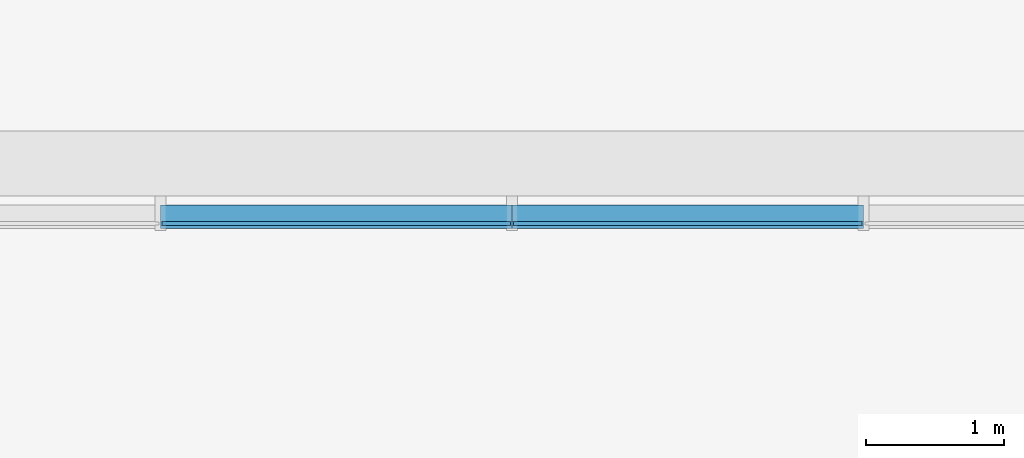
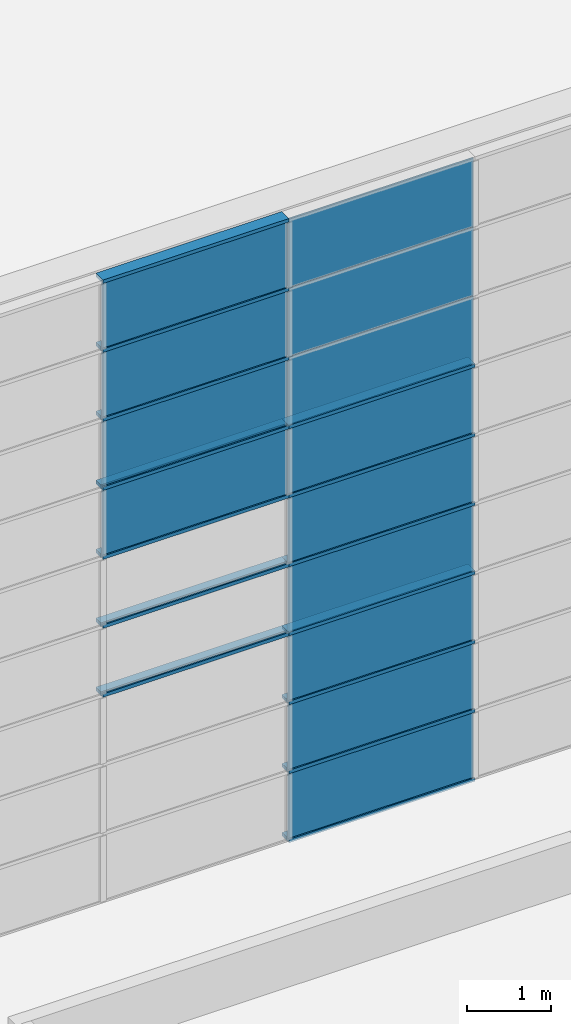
# One storey, part 31 of 105: 30 building element parts, 3 elements without a shape of their own.
"""IFC4 building model written with IfcOpenShell, lengths in millimetres."""

from ifc_helpers import new_model, entity, si_unit, converted_unit, derived_unit, direction, frame, origin_with_axes, place, context, subcontext, project, spatial, triangles, material, element, aggregate, save


model = new_model("IFC4")

# Units and contexts
model_context = context("Model", 3, precision=1e-05, world=origin_with_axes(), true_north=direction((0.0, 1.0)))
body_context = subcontext(model_context, "Body", "Model", "MODEL_VIEW")
ifc_project = project(units=[si_unit("LENGTHUNIT", "METRE", prefix="MILLI"), si_unit("AREAUNIT", "SQUARE_METRE"), si_unit("VOLUMEUNIT", "CUBIC_METRE"), converted_unit("PLANEANGLEUNIT", "DEGREE", entity("IfcLengthMeasure", 0.017453), si_unit("PLANEANGLEUNIT", "RADIAN"), dimensions=[0, 0, 0, 0, 0, 0, 0]), si_unit("SOLIDANGLEUNIT", "STERADIAN"), si_unit("MASSUNIT", "GRAM"), si_unit("TIMEUNIT", "SECOND"), si_unit("THERMODYNAMICTEMPERATUREUNIT", "DEGREE_CELSIUS"), si_unit("LUMINOUSINTENSITYUNIT", "LUMEN"), si_unit("POWERUNIT", "WATT"), derived_unit("THERMALTRANSMITTANCEUNIT", [(si_unit("POWERUNIT", "WATT"), 1), (si_unit("THERMODYNAMICTEMPERATUREUNIT", "KELVIN"), -1), (si_unit("AREAUNIT", "SQUARE_METRE"), -1)])], contexts=[model_context])

# Site, building, storey
site_placement = place(None, origin_with_axes())
site = spatial("IfcSite", under=ifc_project, at=site_placement, Name="Default Site", CompositionType="ELEMENT")
building_placement = place(site_placement, origin_with_axes())
building = spatial("IfcBuilding", under=site, at=building_placement, Name="Default Building", CompositionType="ELEMENT")
storey_placement = place(building_placement, origin_with_axes())
storey = spatial("IfcBuildingStorey", under=building, at=storey_placement, Name="OG - Story", CompositionType="ELEMENT", Elevation=0.0)

# Curtain wall, building element parts
curtain_wall_1_placement = place(storey_placement, origin_with_axes())
curtain_wall_1 = element("IfcCurtainWall", 1, at=curtain_wall_1_placement, inside=storey, Name="Fassade-005", PredefinedType="NOTDEFINED")
ifc_material_1 = material(Name="Normalglas")
building_element_part_1_placement = place(curtain_wall_1_placement, frame((52496.845873, -27789.262838, 3000.0), z_axis=(0.0, 0.0, 1.0), x_axis=(1.0, 0.0, 0.0)))
building_element_part_1 = element("IfcBuildingElementPart", 2, at=building_element_part_1_placement, material=ifc_material_1, Name="Normalglas", PredefinedType="NOTDEFINED", context=body_context, shape_type="Tessellation", body=[
    triangles([(8918.182, 15.0, 995.0), (6387.273, 15.0, 995.0), (6387.273, -14.999, 995.0), (8918.182, -14.999, 995.0), (8918.182, 15.0, 5.0), (6387.273, 15.0, 5.0), (6387.273, -14.999, 5.0), (8918.182, -14.999, 5.0)], [[1, 2, 3], [1, 3, 4], [1, 5, 6], [1, 6, 2], [2, 6, 7], [2, 7, 3], [4, 3, 7], [4, 7, 8], [5, 1, 4], [5, 4, 8], [6, 5, 8], [6, 8, 7]], closed=False),
])
building_element_part_2_placement = place(curtain_wall_1_placement, frame((52496.845873, -27789.262838, 3000.0), z_axis=(0.0, 0.0, 1.0), x_axis=(1.0, 0.0, 0.0)))
building_element_part_2 = element("IfcBuildingElementPart", 3, at=building_element_part_2_placement, material=ifc_material_1, Name="Normalglas", PredefinedType="NOTDEFINED", context=body_context, shape_type="Tessellation", body=[
    triangles([(8918.182, 15.0, 1995.0), (6387.273, 15.0, 1995.0), (6387.273, -14.999, 1995.0), (8918.182, -14.999, 1995.0), (8918.182, 15.0, 1005.0), (6387.273, 15.0, 1005.0), (6387.273, -14.999, 1005.0), (8918.182, -14.999, 1005.0)], [[1, 2, 3], [1, 3, 4], [1, 5, 6], [1, 6, 2], [2, 6, 7], [2, 7, 3], [4, 3, 7], [4, 7, 8], [5, 1, 4], [5, 4, 8], [6, 5, 8], [6, 8, 7]], closed=False),
])
building_element_part_3_placement = place(curtain_wall_1_placement, frame((52496.845873, -27789.262838, 3000.0), z_axis=(0.0, 0.0, 1.0), x_axis=(1.0, 0.0, 0.0)))
building_element_part_3 = element("IfcBuildingElementPart", 4, at=building_element_part_3_placement, material=ifc_material_1, Name="Normalglas", PredefinedType="NOTDEFINED", context=body_context, shape_type="Tessellation", body=[
    triangles([(8918.182, 15.0, 2995.0), (6387.273, 15.0, 2995.0), (6387.273, -14.999, 2995.0), (8918.182, -14.999, 2995.0), (8918.182, 15.0, 2005.0), (6387.273, 15.0, 2005.0), (6387.273, -14.999, 2005.0), (8918.182, -14.999, 2005.0)], [[1, 2, 3], [1, 3, 4], [1, 5, 6], [1, 6, 2], [2, 6, 7], [2, 7, 3], [4, 3, 7], [4, 7, 8], [5, 1, 4], [5, 4, 8], [6, 5, 8], [6, 8, 7]], closed=False),
])
ifc_material_2 = material(Name="Blech")
building_element_part_4_placement = place(curtain_wall_1_placement, frame((52496.845873, -27789.262838, 3000.0), z_axis=(0.0, 0.0, 1.0), x_axis=(1.0, 0.0, 0.0)))
building_element_part_4 = element("IfcBuildingElementPart", 5, at=building_element_part_4_placement, material=ifc_material_2, Name="Blech", PredefinedType="NOTDEFINED", context=body_context, shape_type="Tessellation", body=[
    triangles([(8928.182, 15.0, 25.0), (8928.182, 133.0, 25.0), (8928.182, 15.0, 5.0), (8928.182, 133.0, -24.999), (8928.182, -14.999, 5.0), (8928.182, -34.999, -24.999), (8928.182, -14.999, 25.0), (8928.182, -34.999, 25.0), (6377.273, 15.0, 5.0), (6377.273, -14.999, 5.0), (6377.273, -14.999, 25.0), (6377.273, -34.999, 25.0), (6377.273, -34.999, -24.999), (6377.273, 133.0, -24.999), (6377.273, 133.0, 25.0), (6377.273, 15.0, 25.0)], [[1, 2, 3], [3, 2, 4], [3, 4, 5], [5, 4, 6], [5, 6, 7], [7, 6, 8], [5, 3, 9], [5, 9, 10], [11, 7, 5], [11, 5, 10], [7, 11, 12], [7, 12, 8], [13, 6, 8], [13, 8, 12], [14, 4, 6], [14, 6, 13], [15, 2, 4], [15, 4, 14], [16, 1, 2], [16, 2, 15], [3, 1, 16], [3, 16, 9], [16, 15, 9], [9, 15, 14], [9, 14, 10], [10, 14, 13], [10, 13, 11], [11, 13, 12]], closed=False),
])
building_element_part_5_placement = place(curtain_wall_1_placement, frame((52496.845873, -27789.262838, 3000.0), z_axis=(0.0, 0.0, 1.0), x_axis=(1.0, 0.0, 0.0)))
building_element_part_5 = element("IfcBuildingElementPart", 6, at=building_element_part_5_placement, material=ifc_material_2, Name="Blech", PredefinedType="NOTDEFINED", context=body_context, shape_type="Tessellation", body=[
    triangles([(8928.182, 133.0, 1025.0), (8928.182, 15.0, 1025.0), (8928.182, 133.0, 975.0), (8928.182, 15.0, 1005.0), (8928.182, 15.0, 995.0), (8928.182, -14.999, 1005.0), (8928.182, -14.999, 995.0), (8928.182, -14.999, 975.0), (8928.182, -14.999, 1025.0), (8928.182, -34.999, 1025.0), (8928.182, -34.999, 975.0), (8928.182, 15.0, 975.0), (6377.273, 15.0, 995.0), (6377.273, 15.0, 975.0), (6377.273, 133.0, 975.0), (6377.273, 133.0, 1025.0), (6377.273, 15.0, 1025.0), (6377.273, 15.0, 1005.0), (6377.273, -14.999, 1005.0), (6377.273, -14.999, 1025.0), (6377.273, -34.999, 1025.0), (6377.273, -34.999, 975.0), (6377.273, -14.999, 975.0), (6377.273, -14.999, 995.0)], [[1, 2, 3], [3, 2, 4], [3, 4, 5], [5, 4, 6], [5, 6, 7], [8, 9, 10], [8, 10, 11], [3, 5, 12], [12, 5, 13], [12, 13, 14], [12, 14, 15], [12, 15, 3], [1, 3, 15], [1, 15, 16], [2, 1, 16], [2, 16, 17], [2, 17, 18], [2, 18, 4], [4, 18, 19], [4, 19, 6], [9, 6, 19], [9, 19, 20], [20, 21, 10], [20, 10, 9], [11, 10, 21], [11, 21, 22], [23, 8, 11], [23, 11, 22], [7, 8, 23], [7, 23, 24], [5, 7, 24], [5, 24, 13], [15, 14, 16], [16, 14, 13], [16, 13, 18], [18, 13, 24], [18, 24, 19], [20, 23, 22], [20, 22, 21], [16, 18, 17]], closed=False),
])
building_element_part_6_placement = place(curtain_wall_1_placement, frame((52496.845873, -27789.262838, 3000.0), z_axis=(0.0, 0.0, 1.0), x_axis=(1.0, 0.0, 0.0)))
building_element_part_6 = element("IfcBuildingElementPart", 7, at=building_element_part_6_placement, material=ifc_material_2, Name="Blech", PredefinedType="NOTDEFINED", context=body_context, shape_type="Tessellation", body=[
    triangles([(8928.182, 133.0, 2025.0), (8928.182, 15.0, 2025.0), (8928.182, 133.0, 1975.0), (8928.182, 15.0, 2005.0), (8928.182, 15.0, 1995.0), (8928.182, -14.999, 2005.0), (8928.182, -14.999, 1995.0), (8928.182, -14.999, 1975.0), (8928.182, -14.999, 2025.0), (8928.182, -34.999, 2025.0), (8928.182, -34.999, 1975.0), (8928.182, 15.0, 1975.0), (6377.273, 15.0, 1995.0), (6377.273, 15.0, 1975.0), (6377.273, 133.0, 1975.0), (6377.273, 133.0, 2025.0), (6377.273, 15.0, 2025.0), (6377.273, 15.0, 2005.0), (6377.273, -14.999, 2005.0), (6377.273, -14.999, 2025.0), (6377.273, -34.999, 2025.0), (6377.273, -34.999, 1975.0), (6377.273, -14.999, 1975.0), (6377.273, -14.999, 1995.0)], [[1, 2, 3], [3, 2, 4], [3, 4, 5], [5, 4, 6], [5, 6, 7], [8, 9, 10], [8, 10, 11], [3, 5, 12], [12, 5, 13], [12, 13, 14], [12, 14, 15], [12, 15, 3], [1, 3, 15], [1, 15, 16], [2, 1, 16], [2, 16, 17], [2, 17, 18], [2, 18, 4], [4, 18, 19], [4, 19, 6], [9, 6, 19], [9, 19, 20], [20, 21, 10], [20, 10, 9], [11, 10, 21], [11, 21, 22], [23, 8, 11], [23, 11, 22], [7, 8, 23], [7, 23, 24], [5, 7, 24], [5, 24, 13], [15, 14, 16], [16, 14, 13], [16, 13, 18], [18, 13, 24], [18, 24, 19], [20, 23, 22], [20, 22, 21], [16, 18, 17]], closed=False),
])
building_element_part_7_placement = place(curtain_wall_1_placement, frame((52496.845873, -27789.262838, 3000.0), z_axis=(0.0, 0.0, 1.0), x_axis=(1.0, 0.0, 0.0)))
building_element_part_7 = element("IfcBuildingElementPart", 8, at=building_element_part_7_placement, material=ifc_material_2, Name="Blech", PredefinedType="NOTDEFINED", context=body_context, shape_type="Tessellation", body=[
    triangles([(8928.182, 15.0, 2975.0), (8928.182, 133.0, 2975.0), (8928.182, 15.0, 2995.0), (8928.182, 133.0, 3025.0), (8928.182, -14.999, 2995.0), (8928.182, -34.999, 3025.0), (8928.182, -14.999, 2975.0), (8928.182, -34.999, 2975.0), (6377.273, 15.0, 2995.0), (6377.273, 15.0, 2975.0), (6377.273, 133.0, 2975.0), (6377.273, 133.0, 3025.0), (6377.273, -34.999, 3025.0), (6377.273, -34.999, 2975.0), (6377.273, -14.999, 2975.0), (6377.273, -14.999, 2995.0)], [[1, 2, 3], [3, 2, 4], [3, 4, 5], [5, 4, 6], [5, 6, 7], [7, 6, 8], [3, 9, 10], [3, 10, 1], [10, 11, 2], [10, 2, 1], [11, 12, 4], [11, 4, 2], [12, 13, 6], [12, 6, 4], [13, 14, 8], [13, 8, 6], [7, 8, 14], [7, 14, 15], [15, 16, 5], [15, 5, 7], [5, 16, 9], [5, 9, 3], [10, 11, 9], [9, 11, 12], [9, 12, 16], [16, 12, 13], [16, 13, 15], [15, 13, 14]], closed=False),
])
aggregate(curtain_wall_1, [building_element_part_1, building_element_part_2, building_element_part_3, building_element_part_4, building_element_part_5, building_element_part_6, building_element_part_7])

curtain_wall_2_placement = place(storey_placement, origin_with_axes())
curtain_wall_2 = element("IfcCurtainWall", 9, at=curtain_wall_2_placement, inside=storey, Name="Fassade-005", PredefinedType="NOTDEFINED")
building_element_part_8_placement = place(curtain_wall_2_placement, frame((52496.845873, -27789.262838, 6000.0), z_axis=(0.0, 0.0, 1.0), x_axis=(1.0, 0.0, 0.0)))
building_element_part_8 = element("IfcBuildingElementPart", 10, at=building_element_part_8_placement, material=ifc_material_1, Name="Normalglas", PredefinedType="NOTDEFINED", context=body_context, shape_type="Tessellation", body=[
    triangles([(8918.182, 15.0, 995.0), (6387.273, 15.0, 995.0), (6387.273, -14.999, 995.0), (8918.182, -14.999, 995.0), (8918.182, 15.0, 5.0), (6387.273, 15.0, 5.0), (6387.273, -14.999, 5.0), (8918.182, -14.999, 5.0)], [[1, 2, 3], [1, 3, 4], [1, 5, 6], [1, 6, 2], [2, 6, 7], [2, 7, 3], [4, 3, 7], [4, 7, 8], [5, 1, 4], [5, 4, 8], [6, 5, 8], [6, 8, 7]], closed=False),
])
building_element_part_9_placement = place(curtain_wall_2_placement, frame((52496.845873, -27789.262838, 6000.0), z_axis=(0.0, 0.0, 1.0), x_axis=(1.0, 0.0, 0.0)))
building_element_part_9 = element("IfcBuildingElementPart", 11, at=building_element_part_9_placement, material=ifc_material_1, Name="Normalglas", PredefinedType="NOTDEFINED", context=body_context, shape_type="Tessellation", body=[
    triangles([(8918.182, 15.0, 1995.0), (6387.273, 15.0, 1995.0), (6387.273, -14.999, 1995.0), (8918.182, -14.999, 1995.0), (8918.182, 15.0, 1005.0), (6387.273, 15.0, 1005.0), (6387.273, -14.999, 1005.0), (8918.182, -14.999, 1005.0)], [[1, 2, 3], [1, 3, 4], [1, 5, 6], [1, 6, 2], [2, 6, 7], [2, 7, 3], [4, 3, 7], [4, 7, 8], [5, 1, 4], [5, 4, 8], [6, 5, 8], [6, 8, 7]], closed=False),
])
building_element_part_10_placement = place(curtain_wall_2_placement, frame((52496.845873, -27789.262838, 6000.0), z_axis=(0.0, 0.0, 1.0), x_axis=(1.0, 0.0, 0.0)))
building_element_part_10 = element("IfcBuildingElementPart", 12, at=building_element_part_10_placement, material=ifc_material_1, Name="Normalglas", PredefinedType="NOTDEFINED", context=body_context, shape_type="Tessellation", body=[
    triangles([(6367.273, 15.0, 2995.0), (3836.364, 15.0, 2995.0), (3836.364, -14.999, 2995.0), (6367.273, -14.999, 2995.0), (6367.273, 15.0, 2005.0), (3836.364, 15.0, 2005.0), (3836.364, -14.999, 2005.0), (6367.273, -14.999, 2005.0)], [[1, 2, 3], [1, 3, 4], [1, 5, 6], [1, 6, 2], [2, 6, 7], [2, 7, 3], [4, 3, 7], [4, 7, 8], [5, 1, 4], [5, 4, 8], [6, 5, 8], [6, 8, 7]], closed=False),
])
building_element_part_11_placement = place(curtain_wall_2_placement, frame((52496.845873, -27789.262838, 6000.0), z_axis=(0.0, 0.0, 1.0), x_axis=(1.0, 0.0, 0.0)))
building_element_part_11 = element("IfcBuildingElementPart", 13, at=building_element_part_11_placement, material=ifc_material_1, Name="Normalglas", PredefinedType="NOTDEFINED", context=body_context, shape_type="Tessellation", body=[
    triangles([(8918.182, 15.0, 2995.0), (6387.273, 15.0, 2995.0), (6387.273, -14.999, 2995.0), (8918.182, -14.999, 2995.0), (8918.182, 15.0, 2005.0), (6387.273, 15.0, 2005.0), (6387.273, -14.999, 2005.0), (8918.182, -14.999, 2005.0)], [[1, 2, 3], [1, 3, 4], [1, 5, 6], [1, 6, 2], [2, 6, 7], [2, 7, 3], [4, 3, 7], [4, 7, 8], [5, 1, 4], [5, 4, 8], [6, 5, 8], [6, 8, 7]], closed=False),
])
building_element_part_12_placement = place(curtain_wall_2_placement, frame((52496.845873, -27789.262838, 6000.0), z_axis=(0.0, 0.0, 1.0), x_axis=(1.0, 0.0, 0.0)))
building_element_part_12 = element("IfcBuildingElementPart", 14, at=building_element_part_12_placement, material=ifc_material_2, Name="Blech", PredefinedType="NOTDEFINED", context=body_context, shape_type="Tessellation", body=[
    triangles([(6377.273, 15.0, 25.0), (6377.273, 133.0, 25.0), (6377.273, 15.0, 5.0), (6377.273, 133.0, -24.999), (6377.273, -14.999, 5.0), (6377.273, -34.999, -24.999), (6377.273, -14.999, 25.0), (6377.273, -34.999, 25.0), (3826.364, 15.0, 5.0), (3826.364, -14.999, 5.0), (3826.364, -14.999, 25.0), (3826.364, -34.999, 25.0), (3826.364, -34.999, -24.999), (3826.364, 133.0, -24.999), (3826.364, 133.0, 25.0), (3826.364, 15.0, 25.0)], [[1, 2, 3], [3, 2, 4], [3, 4, 5], [5, 4, 6], [5, 6, 7], [7, 6, 8], [5, 3, 9], [5, 9, 10], [11, 7, 5], [11, 5, 10], [7, 11, 12], [7, 12, 8], [13, 6, 8], [13, 8, 12], [14, 4, 6], [14, 6, 13], [15, 2, 4], [15, 4, 14], [16, 1, 2], [16, 2, 15], [3, 1, 16], [3, 16, 9], [16, 15, 9], [9, 15, 14], [9, 14, 10], [10, 14, 13], [10, 13, 11], [11, 13, 12]], closed=False),
])
building_element_part_13_placement = place(curtain_wall_2_placement, frame((52496.845873, -27789.262838, 6000.0), z_axis=(0.0, 0.0, 1.0), x_axis=(1.0, 0.0, 0.0)))
building_element_part_13 = element("IfcBuildingElementPart", 15, at=building_element_part_13_placement, material=ifc_material_2, Name="Blech", PredefinedType="NOTDEFINED", context=body_context, shape_type="Tessellation", body=[
    triangles([(8928.182, 15.0, 25.0), (8928.182, 133.0, 25.0), (8928.182, 15.0, 5.0), (8928.182, 133.0, -24.999), (8928.182, -14.999, 5.0), (8928.182, -34.999, -24.999), (8928.182, -14.999, 25.0), (8928.182, -34.999, 25.0), (6377.273, 15.0, 5.0), (6377.273, -14.999, 5.0), (6377.273, -14.999, 25.0), (6377.273, -34.999, 25.0), (6377.273, -34.999, -24.999), (6377.273, 133.0, -24.999), (6377.273, 133.0, 25.0), (6377.273, 15.0, 25.0)], [[1, 2, 3], [3, 2, 4], [3, 4, 5], [5, 4, 6], [5, 6, 7], [7, 6, 8], [5, 3, 9], [5, 9, 10], [11, 7, 5], [11, 5, 10], [7, 11, 12], [7, 12, 8], [13, 6, 8], [13, 8, 12], [14, 4, 6], [14, 6, 13], [15, 2, 4], [15, 4, 14], [16, 1, 2], [16, 2, 15], [3, 1, 16], [3, 16, 9], [16, 15, 9], [9, 15, 14], [9, 14, 10], [10, 14, 13], [10, 13, 11], [11, 13, 12]], closed=False),
])
building_element_part_14_placement = place(curtain_wall_2_placement, frame((52496.845873, -27789.262838, 6000.0), z_axis=(0.0, 0.0, 1.0), x_axis=(1.0, 0.0, 0.0)))
building_element_part_14 = element("IfcBuildingElementPart", 16, at=building_element_part_14_placement, material=ifc_material_2, Name="Blech", PredefinedType="NOTDEFINED", context=body_context, shape_type="Tessellation", body=[
    triangles([(6377.273, 133.0, 1025.0), (6377.273, 15.0, 1025.0), (6377.273, 133.0, 975.0), (6377.273, 15.0, 1005.0), (6377.273, 15.0, 995.0), (6377.273, -14.999, 1005.0), (6377.273, -14.999, 995.0), (6377.273, -14.999, 975.0), (6377.273, -14.999, 1025.0), (6377.273, -34.999, 1025.0), (6377.273, -34.999, 975.0), (6377.273, 15.0, 975.0), (3826.364, 15.0, 995.0), (3826.364, 15.0, 975.0), (3826.364, 133.0, 975.0), (3826.364, 133.0, 1025.0), (3826.364, 15.0, 1025.0), (3826.364, 15.0, 1005.0), (3826.364, -14.999, 1005.0), (3826.364, -14.999, 1025.0), (3826.364, -34.999, 1025.0), (3826.364, -34.999, 975.0), (3826.364, -14.999, 975.0), (3826.364, -14.999, 995.0)], [[1, 2, 3], [3, 2, 4], [3, 4, 5], [5, 4, 6], [5, 6, 7], [8, 9, 10], [8, 10, 11], [3, 5, 12], [12, 5, 13], [12, 13, 14], [12, 14, 15], [12, 15, 3], [1, 3, 15], [1, 15, 16], [2, 1, 16], [2, 16, 17], [2, 17, 18], [2, 18, 4], [4, 18, 19], [4, 19, 6], [9, 6, 19], [9, 19, 20], [20, 21, 10], [20, 10, 9], [11, 10, 21], [11, 21, 22], [23, 8, 11], [23, 11, 22], [7, 8, 23], [7, 23, 24], [5, 7, 24], [5, 24, 13], [15, 14, 16], [16, 14, 13], [16, 13, 18], [18, 13, 24], [18, 24, 19], [20, 23, 22], [20, 22, 21], [16, 18, 17]], closed=False),
])
building_element_part_15_placement = place(curtain_wall_2_placement, frame((52496.845873, -27789.262838, 6000.0), z_axis=(0.0, 0.0, 1.0), x_axis=(1.0, 0.0, 0.0)))
building_element_part_15 = element("IfcBuildingElementPart", 17, at=building_element_part_15_placement, material=ifc_material_2, Name="Blech", PredefinedType="NOTDEFINED", context=body_context, shape_type="Tessellation", body=[
    triangles([(8928.182, 133.0, 1025.0), (8928.182, 15.0, 1025.0), (8928.182, 133.0, 975.0), (8928.182, 15.0, 1005.0), (8928.182, 15.0, 995.0), (8928.182, -14.999, 1005.0), (8928.182, -14.999, 995.0), (8928.182, -14.999, 975.0), (8928.182, -14.999, 1025.0), (8928.182, -34.999, 1025.0), (8928.182, -34.999, 975.0), (8928.182, 15.0, 975.0), (6377.273, 15.0, 995.0), (6377.273, 15.0, 975.0), (6377.273, 133.0, 975.0), (6377.273, 133.0, 1025.0), (6377.273, 15.0, 1025.0), (6377.273, 15.0, 1005.0), (6377.273, -14.999, 1005.0), (6377.273, -14.999, 1025.0), (6377.273, -34.999, 1025.0), (6377.273, -34.999, 975.0), (6377.273, -14.999, 975.0), (6377.273, -14.999, 995.0)], [[1, 2, 3], [3, 2, 4], [3, 4, 5], [5, 4, 6], [5, 6, 7], [8, 9, 10], [8, 10, 11], [3, 5, 12], [12, 5, 13], [12, 13, 14], [12, 14, 15], [12, 15, 3], [1, 3, 15], [1, 15, 16], [2, 1, 16], [2, 16, 17], [2, 17, 18], [2, 18, 4], [4, 18, 19], [4, 19, 6], [9, 6, 19], [9, 19, 20], [20, 21, 10], [20, 10, 9], [11, 10, 21], [11, 21, 22], [23, 8, 11], [23, 11, 22], [7, 8, 23], [7, 23, 24], [5, 7, 24], [5, 24, 13], [15, 14, 16], [16, 14, 13], [16, 13, 18], [18, 13, 24], [18, 24, 19], [20, 23, 22], [20, 22, 21], [16, 18, 17]], closed=False),
])
building_element_part_16_placement = place(curtain_wall_2_placement, frame((52496.845873, -27789.262838, 6000.0), z_axis=(0.0, 0.0, 1.0), x_axis=(1.0, 0.0, 0.0)))
building_element_part_16 = element("IfcBuildingElementPart", 18, at=building_element_part_16_placement, material=ifc_material_2, Name="Blech", PredefinedType="NOTDEFINED", context=body_context, shape_type="Tessellation", body=[
    triangles([(6377.273, 133.0, 2025.0), (6377.273, 15.0, 2025.0), (6377.273, 133.0, 1975.0), (6377.273, 15.0, 2005.0), (6377.273, 15.0, 1995.0), (6377.273, -14.999, 2005.0), (6377.273, -14.999, 1995.0), (6377.273, -14.999, 1975.0), (6377.273, -14.999, 2025.0), (6377.273, -34.999, 2025.0), (6377.273, -34.999, 1975.0), (6377.273, 15.0, 1975.0), (3826.364, 15.0, 1995.0), (3826.364, 15.0, 1975.0), (3826.364, 133.0, 1975.0), (3826.364, 133.0, 2025.0), (3826.364, 15.0, 2025.0), (3826.364, 15.0, 2005.0), (3826.364, -14.999, 2005.0), (3826.364, -14.999, 2025.0), (3826.364, -34.999, 2025.0), (3826.364, -34.999, 1975.0), (3826.364, -14.999, 1975.0), (3826.364, -14.999, 1995.0)], [[1, 2, 3], [3, 2, 4], [3, 4, 5], [5, 4, 6], [5, 6, 7], [8, 9, 10], [8, 10, 11], [3, 5, 12], [12, 5, 13], [12, 13, 14], [12, 14, 15], [12, 15, 3], [1, 3, 15], [1, 15, 16], [2, 1, 16], [2, 16, 17], [2, 17, 18], [2, 18, 4], [4, 18, 19], [4, 19, 6], [9, 6, 19], [9, 19, 20], [20, 21, 10], [20, 10, 9], [11, 10, 21], [11, 21, 22], [23, 8, 11], [23, 11, 22], [7, 8, 23], [7, 23, 24], [5, 7, 24], [5, 24, 13], [15, 14, 16], [16, 14, 13], [16, 13, 18], [18, 13, 24], [18, 24, 19], [20, 23, 22], [20, 22, 21], [16, 18, 17]], closed=False),
])
building_element_part_17_placement = place(curtain_wall_2_placement, frame((52496.845873, -27789.262838, 6000.0), z_axis=(0.0, 0.0, 1.0), x_axis=(1.0, 0.0, 0.0)))
building_element_part_17 = element("IfcBuildingElementPart", 19, at=building_element_part_17_placement, material=ifc_material_2, Name="Blech", PredefinedType="NOTDEFINED", context=body_context, shape_type="Tessellation", body=[
    triangles([(6377.273, 15.0, 2975.0), (6377.273, 133.0, 2975.0), (6377.273, 15.0, 2995.0), (6377.273, 133.0, 3025.0), (6377.273, -14.999, 2995.0), (6377.273, -34.999, 3025.0), (6377.273, -14.999, 2975.0), (6377.273, -34.999, 2975.0), (3826.364, 15.0, 2995.0), (3826.364, 15.0, 2975.0), (3826.364, 133.0, 2975.0), (3826.364, 133.0, 3025.0), (3826.364, -34.999, 3025.0), (3826.364, -34.999, 2975.0), (3826.364, -14.999, 2975.0), (3826.364, -14.999, 2995.0)], [[1, 2, 3], [3, 2, 4], [3, 4, 5], [5, 4, 6], [5, 6, 7], [7, 6, 8], [3, 9, 10], [3, 10, 1], [10, 11, 2], [10, 2, 1], [11, 12, 4], [11, 4, 2], [12, 13, 6], [12, 6, 4], [13, 14, 8], [13, 8, 6], [7, 8, 14], [7, 14, 15], [15, 16, 5], [15, 5, 7], [5, 16, 9], [5, 9, 3], [10, 11, 9], [9, 11, 12], [9, 12, 16], [16, 12, 13], [16, 13, 15], [15, 13, 14]], closed=False),
])
building_element_part_18_placement = place(curtain_wall_2_placement, frame((52496.845873, -27789.262838, 6000.0), z_axis=(0.0, 0.0, 1.0), x_axis=(1.0, 0.0, 0.0)))
building_element_part_18 = element("IfcBuildingElementPart", 20, at=building_element_part_18_placement, material=ifc_material_2, Name="Blech", PredefinedType="NOTDEFINED", context=body_context, shape_type="Tessellation", body=[
    triangles([(8928.182, 133.0, 2025.0), (8928.182, 15.0, 2025.0), (8928.182, 133.0, 1975.0), (8928.182, 15.0, 2005.0), (8928.182, 15.0, 1995.0), (8928.182, -14.999, 2005.0), (8928.182, -14.999, 1995.0), (8928.182, -14.999, 1975.0), (8928.182, -14.999, 2025.0), (8928.182, -34.999, 2025.0), (8928.182, -34.999, 1975.0), (8928.182, 15.0, 1975.0), (6377.273, 15.0, 1995.0), (6377.273, 15.0, 1975.0), (6377.273, 133.0, 1975.0), (6377.273, 133.0, 2025.0), (6377.273, 15.0, 2025.0), (6377.273, 15.0, 2005.0), (6377.273, -14.999, 2005.0), (6377.273, -14.999, 2025.0), (6377.273, -34.999, 2025.0), (6377.273, -34.999, 1975.0), (6377.273, -14.999, 1975.0), (6377.273, -14.999, 1995.0)], [[1, 2, 3], [3, 2, 4], [3, 4, 5], [5, 4, 6], [5, 6, 7], [8, 9, 10], [8, 10, 11], [3, 5, 12], [12, 5, 13], [12, 13, 14], [12, 14, 15], [12, 15, 3], [1, 3, 15], [1, 15, 16], [2, 1, 16], [2, 16, 17], [2, 17, 18], [2, 18, 4], [4, 18, 19], [4, 19, 6], [9, 6, 19], [9, 19, 20], [20, 21, 10], [20, 10, 9], [11, 10, 21], [11, 21, 22], [23, 8, 11], [23, 11, 22], [7, 8, 23], [7, 23, 24], [5, 7, 24], [5, 24, 13], [15, 14, 16], [16, 14, 13], [16, 13, 18], [18, 13, 24], [18, 24, 19], [20, 23, 22], [20, 22, 21], [16, 18, 17]], closed=False),
])
building_element_part_19_placement = place(curtain_wall_2_placement, frame((52496.845873, -27789.262838, 6000.0), z_axis=(0.0, 0.0, 1.0), x_axis=(1.0, 0.0, 0.0)))
building_element_part_19 = element("IfcBuildingElementPart", 21, at=building_element_part_19_placement, material=ifc_material_2, Name="Blech", PredefinedType="NOTDEFINED", context=body_context, shape_type="Tessellation", body=[
    triangles([(8928.182, 15.0, 2975.0), (8928.182, 133.0, 2975.0), (8928.182, 15.0, 2995.0), (8928.182, 133.0, 3025.0), (8928.182, -14.999, 2995.0), (8928.182, -34.999, 3025.0), (8928.182, -14.999, 2975.0), (8928.182, -34.999, 2975.0), (6377.273, 15.0, 2995.0), (6377.273, 15.0, 2975.0), (6377.273, 133.0, 2975.0), (6377.273, 133.0, 3025.0), (6377.273, -34.999, 3025.0), (6377.273, -34.999, 2975.0), (6377.273, -14.999, 2975.0), (6377.273, -14.999, 2995.0)], [[1, 2, 3], [3, 2, 4], [3, 4, 5], [5, 4, 6], [5, 6, 7], [7, 6, 8], [3, 9, 10], [3, 10, 1], [10, 11, 2], [10, 2, 1], [11, 12, 4], [11, 4, 2], [12, 13, 6], [12, 6, 4], [13, 14, 8], [13, 8, 6], [7, 8, 14], [7, 14, 15], [15, 16, 5], [15, 5, 7], [5, 16, 9], [5, 9, 3], [10, 11, 9], [9, 11, 12], [9, 12, 16], [16, 12, 13], [16, 13, 15], [15, 13, 14]], closed=False),
])
aggregate(curtain_wall_2, [building_element_part_8, building_element_part_9, building_element_part_10, building_element_part_11, building_element_part_12, building_element_part_13, building_element_part_14, building_element_part_15, building_element_part_16, building_element_part_17, building_element_part_18, building_element_part_19])

curtain_wall_3_placement = place(storey_placement, origin_with_axes())
curtain_wall_3 = element("IfcCurtainWall", 22, at=curtain_wall_3_placement, inside=storey, Name="Fassade-005", PredefinedType="NOTDEFINED")
building_element_part_20_placement = place(curtain_wall_3_placement, frame((52496.845873, -27789.262838, 9000.0), z_axis=(0.0, 0.0, 1.0), x_axis=(1.0, 0.0, 0.0)))
building_element_part_20 = element("IfcBuildingElementPart", 23, at=building_element_part_20_placement, material=ifc_material_1, Name="Normalglas", PredefinedType="NOTDEFINED", context=body_context, shape_type="Tessellation", body=[
    triangles([(6367.273, 15.0, 995.0), (3836.364, 15.0, 995.0), (3836.364, -14.999, 995.0), (6367.273, -14.999, 995.0), (6367.273, 15.0, 5.0), (3836.364, 15.0, 5.0), (3836.364, -14.999, 5.0), (6367.273, -14.999, 5.0)], [[1, 2, 3], [1, 3, 4], [1, 5, 6], [1, 6, 2], [2, 6, 7], [2, 7, 3], [4, 3, 7], [4, 7, 8], [5, 1, 4], [5, 4, 8], [6, 5, 8], [6, 8, 7]], closed=False),
])
building_element_part_21_placement = place(curtain_wall_3_placement, frame((52496.845873, -27789.262838, 9000.0), z_axis=(0.0, 0.0, 1.0), x_axis=(1.0, 0.0, 0.0)))
building_element_part_21 = element("IfcBuildingElementPart", 24, at=building_element_part_21_placement, material=ifc_material_1, Name="Normalglas", PredefinedType="NOTDEFINED", context=body_context, shape_type="Tessellation", body=[
    triangles([(8918.182, 15.0, 995.0), (6387.273, 15.0, 995.0), (6387.273, -14.999, 995.0), (8918.182, -14.999, 995.0), (8918.182, 15.0, 5.0), (6387.273, 15.0, 5.0), (6387.273, -14.999, 5.0), (8918.182, -14.999, 5.0)], [[1, 2, 3], [1, 3, 4], [1, 5, 6], [1, 6, 2], [2, 6, 7], [2, 7, 3], [4, 3, 7], [4, 7, 8], [5, 1, 4], [5, 4, 8], [6, 5, 8], [6, 8, 7]], closed=False),
])
building_element_part_22_placement = place(curtain_wall_3_placement, frame((52496.845873, -27789.262838, 9000.0), z_axis=(0.0, 0.0, 1.0), x_axis=(1.0, 0.0, 0.0)))
building_element_part_22 = element("IfcBuildingElementPart", 25, at=building_element_part_22_placement, material=ifc_material_1, Name="Normalglas", PredefinedType="NOTDEFINED", context=body_context, shape_type="Tessellation", body=[
    triangles([(6367.273, 15.0, 1995.0), (3836.364, 15.0, 1995.0), (3836.364, -14.999, 1995.0), (6367.273, -14.999, 1995.0), (6367.273, 15.0, 1005.0), (3836.364, 15.0, 1005.0), (3836.364, -14.999, 1005.0), (6367.273, -14.999, 1005.0)], [[1, 2, 3], [1, 3, 4], [1, 5, 6], [1, 6, 2], [2, 6, 7], [2, 7, 3], [4, 3, 7], [4, 7, 8], [5, 1, 4], [5, 4, 8], [6, 5, 8], [6, 8, 7]], closed=False),
])
building_element_part_23_placement = place(curtain_wall_3_placement, frame((52496.845873, -27789.262838, 9000.0), z_axis=(0.0, 0.0, 1.0), x_axis=(1.0, 0.0, 0.0)))
building_element_part_23 = element("IfcBuildingElementPart", 26, at=building_element_part_23_placement, material=ifc_material_1, Name="Normalglas", PredefinedType="NOTDEFINED", context=body_context, shape_type="Tessellation", body=[
    triangles([(8918.182, 15.0, 1995.0), (6387.273, 15.0, 1995.0), (6387.273, -14.999, 1995.0), (8918.182, -14.999, 1995.0), (8918.182, 15.0, 1005.0), (6387.273, 15.0, 1005.0), (6387.273, -14.999, 1005.0), (8918.182, -14.999, 1005.0)], [[1, 2, 3], [1, 3, 4], [1, 5, 6], [1, 6, 2], [2, 6, 7], [2, 7, 3], [4, 3, 7], [4, 7, 8], [5, 1, 4], [5, 4, 8], [6, 5, 8], [6, 8, 7]], closed=False),
])
building_element_part_24_placement = place(curtain_wall_3_placement, frame((52496.845873, -27789.262838, 9000.0), z_axis=(0.0, 0.0, 1.0), x_axis=(1.0, 0.0, 0.0)))
building_element_part_24 = element("IfcBuildingElementPart", 27, at=building_element_part_24_placement, material=ifc_material_1, Name="Normalglas", PredefinedType="NOTDEFINED", context=body_context, shape_type="Tessellation", body=[
    triangles([(6367.273, 15.0, 2995.0), (3836.364, 15.0, 2995.0), (3836.364, -14.999, 2995.0), (6367.273, -14.999, 2995.0), (6367.273, 15.0, 2005.0), (3836.364, 15.0, 2005.0), (3836.364, -14.999, 2005.0), (6367.273, -14.999, 2005.0)], [[1, 2, 3], [1, 3, 4], [1, 5, 6], [1, 6, 2], [2, 6, 7], [2, 7, 3], [4, 3, 7], [4, 7, 8], [5, 1, 4], [5, 4, 8], [6, 5, 8], [6, 8, 7]], closed=False),
])
building_element_part_25_placement = place(curtain_wall_3_placement, frame((52496.845873, -27789.262838, 9000.0), z_axis=(0.0, 0.0, 1.0), x_axis=(1.0, 0.0, 0.0)))
building_element_part_25 = element("IfcBuildingElementPart", 28, at=building_element_part_25_placement, material=ifc_material_1, Name="Normalglas", PredefinedType="NOTDEFINED", context=body_context, shape_type="Tessellation", body=[
    triangles([(8918.182, 15.0, 2995.0), (6387.273, 15.0, 2995.0), (6387.273, -14.999, 2995.0), (8918.182, -14.999, 2995.0), (8918.182, 15.0, 2005.0), (6387.273, 15.0, 2005.0), (6387.273, -14.999, 2005.0), (8918.182, -14.999, 2005.0)], [[1, 2, 3], [1, 3, 4], [1, 5, 6], [1, 6, 2], [2, 6, 7], [2, 7, 3], [4, 3, 7], [4, 7, 8], [5, 1, 4], [5, 4, 8], [6, 5, 8], [6, 8, 7]], closed=False),
])
building_element_part_26_placement = place(curtain_wall_3_placement, frame((52496.845873, -27789.262838, 9000.0), z_axis=(0.0, 0.0, 1.0), x_axis=(1.0, 0.0, 0.0)))
building_element_part_26 = element("IfcBuildingElementPart", 29, at=building_element_part_26_placement, material=ifc_material_2, Name="Blech", PredefinedType="NOTDEFINED", context=body_context, shape_type="Tessellation", body=[
    triangles([(6377.273, 15.0, 25.0), (6377.273, 133.0, 25.0), (6377.273, 15.0, 5.0), (6377.273, 133.0, -24.999), (6377.273, -14.999, 5.0), (6377.273, -34.999, -24.999), (6377.273, -14.999, 25.0), (6377.273, -34.999, 25.0), (3826.364, 15.0, 5.0), (3826.364, -14.999, 5.0), (3826.364, -14.999, 25.0), (3826.364, -34.999, 25.0), (3826.364, -34.999, -24.999), (3826.364, 133.0, -24.999), (3826.364, 133.0, 25.0), (3826.364, 15.0, 25.0)], [[1, 2, 3], [3, 2, 4], [3, 4, 5], [5, 4, 6], [5, 6, 7], [7, 6, 8], [5, 3, 9], [5, 9, 10], [11, 7, 5], [11, 5, 10], [7, 11, 12], [7, 12, 8], [13, 6, 8], [13, 8, 12], [14, 4, 6], [14, 6, 13], [15, 2, 4], [15, 4, 14], [16, 1, 2], [16, 2, 15], [3, 1, 16], [3, 16, 9], [16, 15, 9], [9, 15, 14], [9, 14, 10], [10, 14, 13], [10, 13, 11], [11, 13, 12]], closed=False),
])
building_element_part_27_placement = place(curtain_wall_3_placement, frame((52496.845873, -27789.262838, 9000.0), z_axis=(0.0, 0.0, 1.0), x_axis=(1.0, 0.0, 0.0)))
building_element_part_27 = element("IfcBuildingElementPart", 30, at=building_element_part_27_placement, material=ifc_material_2, Name="Blech", PredefinedType="NOTDEFINED", context=body_context, shape_type="Tessellation", body=[
    triangles([(8928.182, 15.0, 25.0), (8928.182, 133.0, 25.0), (8928.182, 15.0, 5.0), (8928.182, 133.0, -24.999), (8928.182, -14.999, 5.0), (8928.182, -34.999, -24.999), (8928.182, -14.999, 25.0), (8928.182, -34.999, 25.0), (6377.273, 15.0, 5.0), (6377.273, -14.999, 5.0), (6377.273, -14.999, 25.0), (6377.273, -34.999, 25.0), (6377.273, -34.999, -24.999), (6377.273, 133.0, -24.999), (6377.273, 133.0, 25.0), (6377.273, 15.0, 25.0)], [[1, 2, 3], [3, 2, 4], [3, 4, 5], [5, 4, 6], [5, 6, 7], [7, 6, 8], [5, 3, 9], [5, 9, 10], [11, 7, 5], [11, 5, 10], [7, 11, 12], [7, 12, 8], [13, 6, 8], [13, 8, 12], [14, 4, 6], [14, 6, 13], [15, 2, 4], [15, 4, 14], [16, 1, 2], [16, 2, 15], [3, 1, 16], [3, 16, 9], [16, 15, 9], [9, 15, 14], [9, 14, 10], [10, 14, 13], [10, 13, 11], [11, 13, 12]], closed=False),
])
building_element_part_28_placement = place(curtain_wall_3_placement, frame((52496.845873, -27789.262838, 9000.0), z_axis=(0.0, 0.0, 1.0), x_axis=(1.0, 0.0, 0.0)))
building_element_part_28 = element("IfcBuildingElementPart", 31, at=building_element_part_28_placement, material=ifc_material_2, Name="Blech", PredefinedType="NOTDEFINED", context=body_context, shape_type="Tessellation", body=[
    triangles([(6377.273, 133.0, 1025.0), (6377.273, 15.0, 1025.0), (6377.273, 133.0, 975.0), (6377.273, 15.0, 1005.0), (6377.273, 15.0, 995.0), (6377.273, -14.999, 1005.0), (6377.273, -14.999, 995.0), (6377.273, -14.999, 975.0), (6377.273, -14.999, 1025.0), (6377.273, -34.999, 1025.0), (6377.273, -34.999, 975.0), (6377.273, 15.0, 975.0), (3826.364, 15.0, 995.0), (3826.364, 15.0, 975.0), (3826.364, 133.0, 975.0), (3826.364, 133.0, 1025.0), (3826.364, 15.0, 1025.0), (3826.364, 15.0, 1005.0), (3826.364, -14.999, 1005.0), (3826.364, -14.999, 1025.0), (3826.364, -34.999, 1025.0), (3826.364, -34.999, 975.0), (3826.364, -14.999, 975.0), (3826.364, -14.999, 995.0)], [[1, 2, 3], [3, 2, 4], [3, 4, 5], [5, 4, 6], [5, 6, 7], [8, 9, 10], [8, 10, 11], [3, 5, 12], [12, 5, 13], [12, 13, 14], [12, 14, 15], [12, 15, 3], [1, 3, 15], [1, 15, 16], [2, 1, 16], [2, 16, 17], [2, 17, 18], [2, 18, 4], [4, 18, 19], [4, 19, 6], [9, 6, 19], [9, 19, 20], [20, 21, 10], [20, 10, 9], [11, 10, 21], [11, 21, 22], [23, 8, 11], [23, 11, 22], [7, 8, 23], [7, 23, 24], [5, 7, 24], [5, 24, 13], [15, 14, 16], [16, 14, 13], [16, 13, 18], [18, 13, 24], [18, 24, 19], [20, 23, 22], [20, 22, 21], [16, 18, 17]], closed=False),
])
building_element_part_29_placement = place(curtain_wall_3_placement, frame((52496.845873, -27789.262838, 9000.0), z_axis=(0.0, 0.0, 1.0), x_axis=(1.0, 0.0, 0.0)))
building_element_part_29 = element("IfcBuildingElementPart", 32, at=building_element_part_29_placement, material=ifc_material_2, Name="Blech", PredefinedType="NOTDEFINED", context=body_context, shape_type="Tessellation", body=[
    triangles([(6377.273, 133.0, 2025.0), (6377.273, 15.0, 2025.0), (6377.273, 133.0, 1975.0), (6377.273, 15.0, 2005.0), (6377.273, 15.0, 1995.0), (6377.273, -14.999, 2005.0), (6377.273, -14.999, 1995.0), (6377.273, -14.999, 1975.0), (6377.273, -14.999, 2025.0), (6377.273, -34.999, 2025.0), (6377.273, -34.999, 1975.0), (6377.273, 15.0, 1975.0), (3826.364, 15.0, 1995.0), (3826.364, 15.0, 1975.0), (3826.364, 133.0, 1975.0), (3826.364, 133.0, 2025.0), (3826.364, 15.0, 2025.0), (3826.364, 15.0, 2005.0), (3826.364, -14.999, 2005.0), (3826.364, -14.999, 2025.0), (3826.364, -34.999, 2025.0), (3826.364, -34.999, 1975.0), (3826.364, -14.999, 1975.0), (3826.364, -14.999, 1995.0)], [[1, 2, 3], [3, 2, 4], [3, 4, 5], [5, 4, 6], [5, 6, 7], [8, 9, 10], [8, 10, 11], [3, 5, 12], [12, 5, 13], [12, 13, 14], [12, 14, 15], [12, 15, 3], [1, 3, 15], [1, 15, 16], [2, 1, 16], [2, 16, 17], [2, 17, 18], [2, 18, 4], [4, 18, 19], [4, 19, 6], [9, 6, 19], [9, 19, 20], [20, 21, 10], [20, 10, 9], [11, 10, 21], [11, 21, 22], [23, 8, 11], [23, 11, 22], [7, 8, 23], [7, 23, 24], [5, 7, 24], [5, 24, 13], [15, 14, 16], [16, 14, 13], [16, 13, 18], [18, 13, 24], [18, 24, 19], [20, 23, 22], [20, 22, 21], [16, 18, 17]], closed=False),
])
building_element_part_30_placement = place(curtain_wall_3_placement, frame((52496.845873, -27789.262838, 9000.0), z_axis=(0.0, 0.0, 1.0), x_axis=(1.0, 0.0, 0.0)))
building_element_part_30 = element("IfcBuildingElementPart", 33, at=building_element_part_30_placement, material=ifc_material_2, Name="Blech", PredefinedType="NOTDEFINED", context=body_context, shape_type="Tessellation", body=[
    triangles([(6377.273, 15.0, 2975.0), (6377.273, 133.0, 2975.0), (6377.273, 15.0, 2995.0), (6377.273, 133.0, 3025.0), (6377.273, -14.999, 2995.0), (6377.273, -34.999, 3025.0), (6377.273, -14.999, 2975.0), (6377.273, -34.999, 2975.0), (3826.364, 15.0, 2995.0), (3826.364, 15.0, 2975.0), (3826.364, 133.0, 2975.0), (3826.364, 133.0, 3025.0), (3826.364, -34.999, 3025.0), (3826.364, -34.999, 2975.0), (3826.364, -14.999, 2975.0), (3826.364, -14.999, 2995.0)], [[1, 2, 3], [3, 2, 4], [3, 4, 5], [5, 4, 6], [5, 6, 7], [7, 6, 8], [3, 9, 10], [3, 10, 1], [10, 11, 2], [10, 2, 1], [11, 12, 4], [11, 4, 2], [12, 13, 6], [12, 6, 4], [13, 14, 8], [13, 8, 6], [7, 8, 14], [7, 14, 15], [15, 16, 5], [15, 5, 7], [5, 16, 9], [5, 9, 3], [10, 11, 9], [9, 11, 12], [9, 12, 16], [16, 12, 13], [16, 13, 15], [15, 13, 14]], closed=False),
])
aggregate(curtain_wall_3, [building_element_part_20, building_element_part_21, building_element_part_22, building_element_part_23, building_element_part_24, building_element_part_25, building_element_part_26, building_element_part_27, building_element_part_28, building_element_part_29, building_element_part_30])

save(model, "model.ifc")
